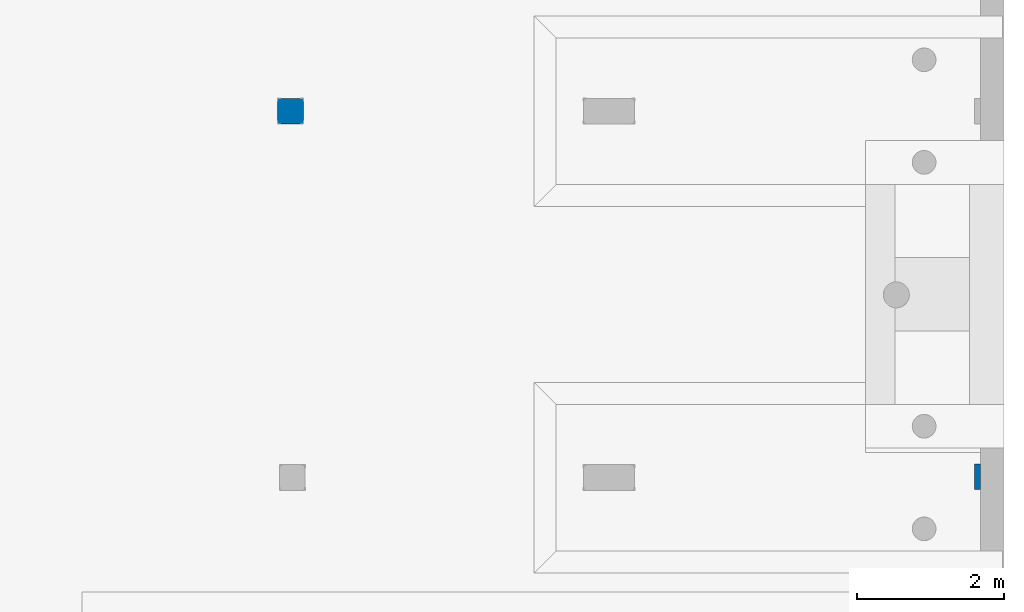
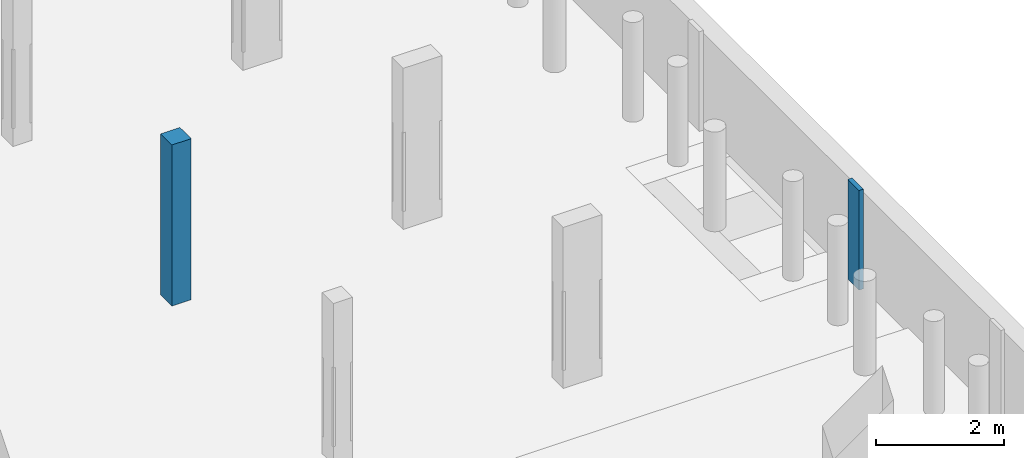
# One storey, part 14 of 42: 2 columns.
"""IFC2X3 building model written with IfcOpenShell, lengths in millimetres."""

from ifc_helpers import new_model, entity, si_unit, converted_unit, derived_unit, direction, frame, frame_2d, origin, origin_2d_with_axis, place, context, subcontext, project, spatial, rectangle, extrude, source, transform, mapped, material, type_object, type_shapes, element, save


model = new_model("IFC2X3")

# Units and contexts
model_context = context("Model", 3, precision=0.01, world=origin(), true_north=direction((6.12303176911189e-17, 1.0)))
body_context = subcontext(model_context, "Body", "Model", "MODEL_VIEW")
ifc_project = project(units=[si_unit("LENGTHUNIT", "METRE", prefix="MILLI"), si_unit("AREAUNIT", "SQUARE_METRE", prefix="MILLI"), si_unit("VOLUMEUNIT", "CUBIC_METRE"), converted_unit("PLANEANGLEUNIT", "DEGREE", entity("IfcRatioMeasure", 0.0174532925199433), si_unit("PLANEANGLEUNIT", "RADIAN"), dimensions=[0, 0, 0, 0, 0, 0, 0]), si_unit("MASSUNIT", "GRAM", prefix="KILO"), derived_unit("MASSDENSITYUNIT", [(si_unit("MASSUNIT", "GRAM", prefix="KILO"), 1), (si_unit("LENGTHUNIT", "METRE"), -3)]), derived_unit("MOMENTOFINERTIAUNIT", [(si_unit("LENGTHUNIT", "METRE"), 4)]), si_unit("TIMEUNIT", "SECOND"), si_unit("FREQUENCYUNIT", "HERTZ"), si_unit("THERMODYNAMICTEMPERATUREUNIT", "DEGREE_CELSIUS"), derived_unit("THERMALTRANSMITTANCEUNIT", [(si_unit("MASSUNIT", "GRAM", prefix="KILO"), 1), (si_unit("THERMODYNAMICTEMPERATUREUNIT", "KELVIN"), -1), (si_unit("TIMEUNIT", "SECOND"), -3)]), derived_unit("VOLUMETRICFLOWRATEUNIT", [(si_unit("LENGTHUNIT", "METRE"), 3), (si_unit("TIMEUNIT", "SECOND"), -1)]), si_unit("ELECTRICCURRENTUNIT", "AMPERE"), si_unit("ELECTRICVOLTAGEUNIT", "VOLT"), si_unit("POWERUNIT", "WATT"), si_unit("FORCEUNIT", "NEWTON", prefix="KILO"), si_unit("ILLUMINANCEUNIT", "LUX"), si_unit("LUMINOUSFLUXUNIT", "LUMEN"), si_unit("LUMINOUSINTENSITYUNIT", "CANDELA"), derived_unit("USERDEFINED", [(si_unit("MASSUNIT", "GRAM", prefix="KILO"), -1), (si_unit("LENGTHUNIT", "METRE"), -2), (si_unit("TIMEUNIT", "SECOND"), 3), (si_unit("LUMINOUSFLUXUNIT", "LUMEN"), 1)]), derived_unit("LINEARVELOCITYUNIT", [(si_unit("LENGTHUNIT", "METRE"), 1), (si_unit("TIMEUNIT", "SECOND"), -1)]), si_unit("PRESSUREUNIT", "PASCAL"), derived_unit("USERDEFINED", [(si_unit("LENGTHUNIT", "METRE"), -2), (si_unit("MASSUNIT", "GRAM", prefix="KILO"), 1), (si_unit("TIMEUNIT", "SECOND"), -2)]), derived_unit("LINEARFORCEUNIT", [(si_unit("MASSUNIT", "GRAM", prefix="KILO"), 1), (si_unit("LENGTHUNIT", "METRE"), 1), (si_unit("TIMEUNIT", "SECOND"), -2), (si_unit("LENGTHUNIT", "METRE"), -1)]), derived_unit("PLANARFORCEUNIT", [(si_unit("MASSUNIT", "GRAM", prefix="KILO"), 1), (si_unit("LENGTHUNIT", "METRE"), 1), (si_unit("TIMEUNIT", "SECOND"), -2), (si_unit("LENGTHUNIT", "METRE"), -2)])], contexts=[model_context])

# Site, building, storey
site_placement = place(None, origin())
site = spatial("IfcSite", under=ifc_project, at=site_placement, Name="Theater aan de Parade", CompositionType="ELEMENT")
building_placement = place(site_placement, origin())
building = spatial("IfcBuilding", under=site, at=building_placement, Name="Theater aan de Parade", CompositionType="ELEMENT")
storey_placement = place(building_placement, frame((0.0, 0.0, -3300.0)))
storey = spatial("IfcBuildingStorey", under=building, at=storey_placement, Name="-1 kelder", CompositionType="ELEMENT", Elevation=-3300.0)

# Columns
ifc_material = material(Name="00_PBT_MAT_beton t.p.g.")
column_type_1 = type_object("IfcColumnType", Name="28_PBT_SC_beton_rechthoekig:350x350_bestaand", PredefinedType="COLUMN", material=ifc_material)
shared_shape_1 = source(origin(), body_context, "Body", "SweptSolid", [
    extrude(rectangle(XDim=349.999999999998, YDim=349.99999999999, at=origin_2d_with_axis()), frame((78945.0, 29970.0, -2640.0), z_axis=(0.0, 0.0, 1.0), x_axis=(0.0, -1.0, 0.0)), (0.0, 0.0, 1.0), 3070.0000000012),
])
type_shapes(column_type_1, [shared_shape_1])
column_1_placement = place(storey_placement, frame((0.0, 0.0, 3300.0)))
element("IfcColumn", 1, at=column_1_placement, inside=storey, type_object=column_type_1, material=ifc_material, Name="28_PBT_SC_beton_rechthoekig:350x350_bestaand", ObjectType="28_PBT_SC_beton_rechthoekig:350x350_bestaand", context=body_context, shape_type="MappedRepresentation", body=[
    mapped(shared_shape_1, transform((0.0, 0.0, 0.0), scale=1.0)),
])
column_type_2 = type_object("IfcColumnType", Name="16_PBT_SC_beton_rechthoekig:350x350_bestaand", PredefinedType="COLUMN", material=ifc_material)
shared_shape_2 = source(origin(), body_context, "Body", "SweptSolid", [
    extrude(rectangle(XDim=349.999999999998, YDim=79.9999999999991, at=frame_2d((0.0, 8.66506866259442e-12), x_axis=(1.0, 0.0))), frame((88320.0, 24980.0, -2640.0), z_axis=(0.0, 0.0, 1.0), x_axis=(0.0, -1.0, 0.0)), (0.0, 0.0, 1.0), 1900.00000000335),
])
type_shapes(column_type_2, [shared_shape_2])
column_2_placement = place(storey_placement, frame((0.0, 0.0, 3300.0)))
element("IfcColumn", 2, at=column_2_placement, inside=storey, type_object=column_type_2, material=ifc_material, Name="16_PBT_SC_beton_rechthoekig:350x350_bestaand", ObjectType="16_PBT_SC_beton_rechthoekig:350x350_bestaand", context=body_context, shape_type="MappedRepresentation", body=[
    mapped(shared_shape_2, transform((0.0, 0.0, 0.0), scale=1.0)),
])

save(model, "model.ifc")
